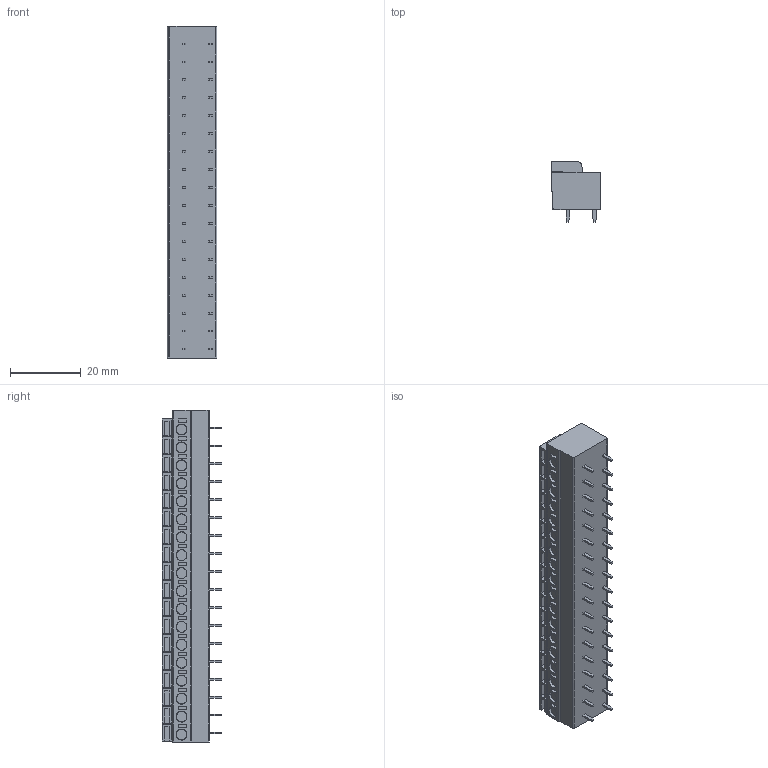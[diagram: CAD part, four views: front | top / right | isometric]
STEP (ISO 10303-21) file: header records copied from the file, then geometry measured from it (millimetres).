
FILE_DESCRIPTION((''),'2;1');
FILE_NAME('18','2020-06-12T',('P'),(''),'PRO/ENGINEER BY PARAMETRIC TECHNOLOGY CORPORATION, 2010280','PRO/ENGINEER BY PARAMETRIC TECHNOLOGY CORPORATION, 2010280','');
FILE_SCHEMA(('CONFIG_CONTROL_DESIGN'));
Length unit declared in the file: millimetre
Products named in the file (1): 18
Bounding box: 14.1 x 16.9 x 93.98 mm (x, y, z)
Volume: 14768.6 mm3; surface area: 7979.4 mm2
Topology: 1 solids, 19 shells, 858 faces, 2417 edges, 1687 vertices
Faces by surface type: plane 727, cylinder 95, cone 36
Entity records: 27861 total; most frequent: CARTESIAN_POINT 5225, ORIENTED_EDGE 4834, DIRECTION 4381, EDGE_CURVE 2417, VECTOR 2031, LINE 2031, VERTEX_POINT 1687, AXIS2_PLACEMENT_3D 1175
